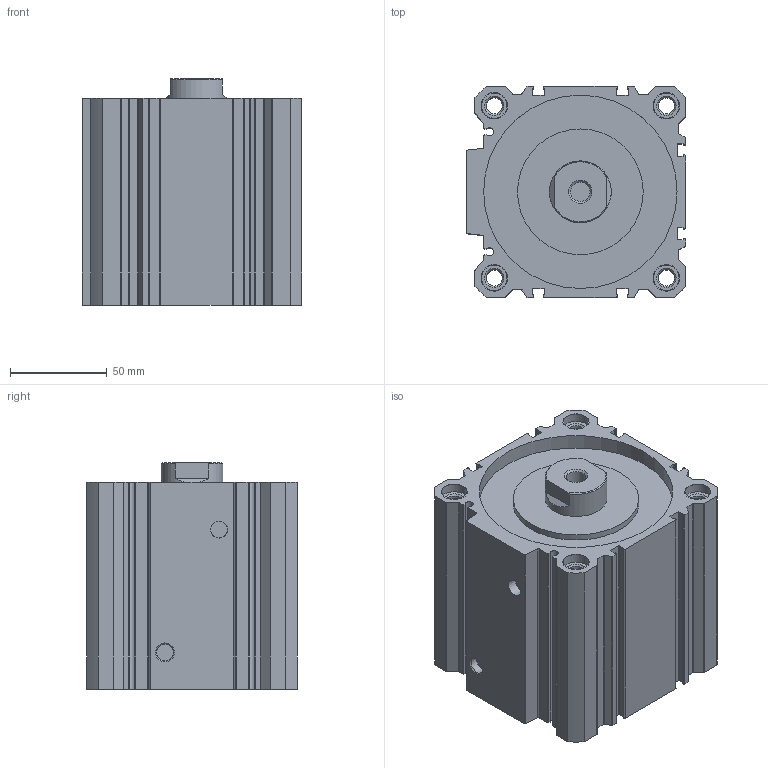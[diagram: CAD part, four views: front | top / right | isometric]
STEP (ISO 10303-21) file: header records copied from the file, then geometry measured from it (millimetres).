
FILE_DESCRIPTION( ( 'STEP AP214' ), '1' );
FILE_NAME( 'C:/Users/EMC02301/Desktop/RU0638 SF图纸/SF100X40-S.stp', '2026-07-24T09:10:25', ( 'License CC BY-ND 4.0' ), ( 'CADENAS' ), ' ', 'PARTsolutions', ' ' );
FILE_SCHEMA( ( 'AUTOMOTIVE_DESIGN { 1 0 10303 214 1 1 1 1 }' ) );
Length unit declared in the file: millimetre
Products named in the file (3): SF100X40-S()(00); _SF100X40()(_body) ; _SF100X40(rod-0)
Assembly tree (2 placements, depth 2):
  SF100X40-S()(00)
    _SF100X40()(_body) 
    _SF100X40(rod-0)
Bounding box: 113.5 x 109 x 117 mm (x, y, z)
Volume: 853414.9 mm3; surface area: 162377 mm2
Topology: 2 solids, 2 shells, 248 faces, 663 edges, 436 vertices
Faces by surface type: plane 115, cylinder 111, cone 22
Full cylindrical faces by diameter (mm): 8.376 x4, 8.566 x1, 10.106 x1, 13.7 x8, 32 x2, 65 x1, 100 x4
Entity records: 9626 total; most frequent: DIRECTION 1366, CARTESIAN_POINT 1317, ORIENTED_EDGE 1240, EDGE_CURVE 620, AXIS2_PLACEMENT_3D 499, VERTEX_POINT 434, LINE 368, VECTOR 368
